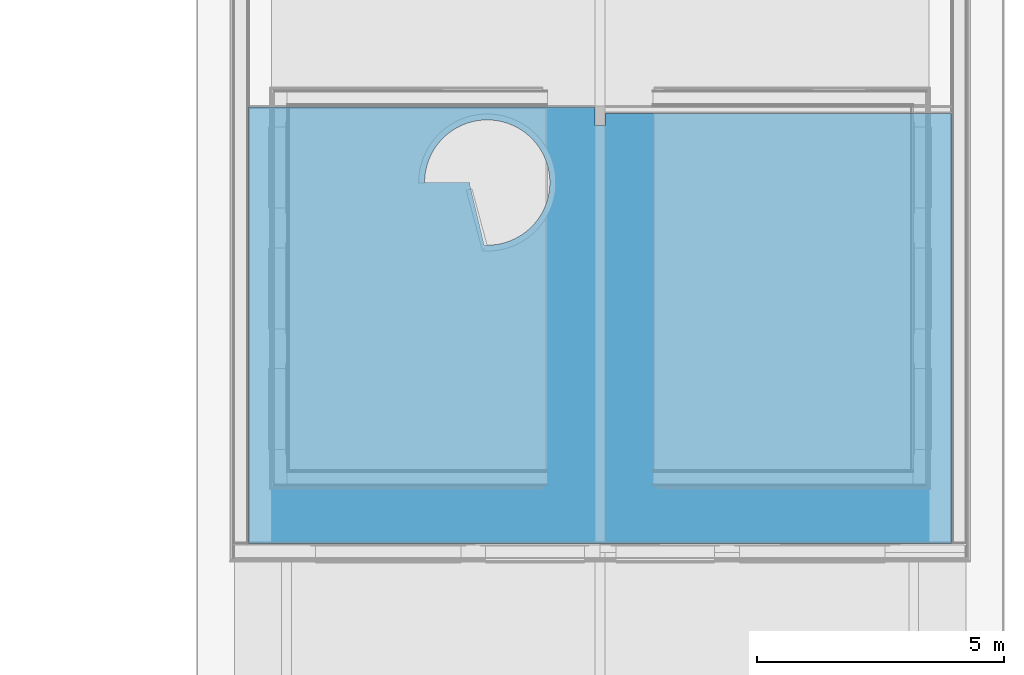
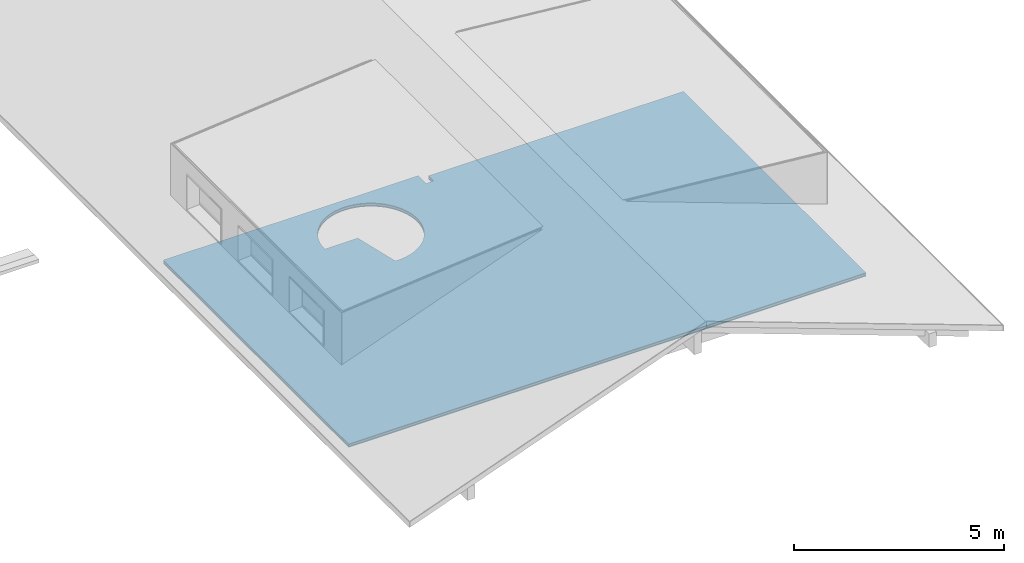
# One storey, part 4 of 12: 3 building element parts, 1 element without a shape of its own.
"""IFC4 building model written with IfcOpenShell, lengths in millimetres."""

from ifc_helpers import new_model, entity, si_unit, converted_unit, derived_unit, direction, frame, origin_with_axes, place, context, subcontext, project, spatial, polygons, material, type_object, element, aggregate, save


model = new_model("IFC4")

# Units and contexts
model_context = context("Model", 3, precision=0.01, world=origin_with_axes(), true_north=direction((0.0, 1.0)))
body_context = subcontext(model_context, "Body", "Model", "MODEL_VIEW")
ifc_project = project(units=[si_unit("LENGTHUNIT", "METRE", prefix="MILLI"), si_unit("AREAUNIT", "SQUARE_METRE"), si_unit("VOLUMEUNIT", "CUBIC_METRE"), converted_unit("PLANEANGLEUNIT", "DEGREE", entity("IfcPlaneAngleMeasure", 0.0174532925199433), si_unit("PLANEANGLEUNIT", "RADIAN"), dimensions=[0, 0, 0, 0, 0, 0, 0]), converted_unit("TIMEUNIT", "Year", entity("IfcTimeMeasure", 31557600.0), si_unit("TIMEUNIT", "SECOND"), dimensions=[0, 0, 1, 0, 0, 0, 0]), si_unit("MASSUNIT", "GRAM", prefix="KILO"), si_unit("THERMODYNAMICTEMPERATUREUNIT", "DEGREE_CELSIUS"), si_unit("LUMINOUSINTENSITYUNIT", "LUMEN"), si_unit("ENERGYUNIT", "JOULE", prefix="MEGA"), derived_unit("THERMALCONDUCTANCEUNIT", [(si_unit("POWERUNIT", "WATT"), 1), (si_unit("LENGTHUNIT", "METRE"), -1), (si_unit("THERMODYNAMICTEMPERATUREUNIT", "KELVIN"), -1)]), derived_unit("SPECIFICHEATCAPACITYUNIT", [(si_unit("ENERGYUNIT", "JOULE"), 1), (si_unit("MASSUNIT", "GRAM", prefix="KILO"), -1), (si_unit("THERMODYNAMICTEMPERATUREUNIT", "KELVIN"), -1)]), derived_unit("MASSDENSITYUNIT", [(si_unit("MASSUNIT", "GRAM", prefix="KILO"), 1), (si_unit("VOLUMEUNIT", "CUBIC_METRE"), -1)])], contexts=[model_context])

# Site, building, storey
site_placement = place(None, origin_with_axes())
site = spatial("IfcSite", under=ifc_project, at=site_placement, Name="Gelände", CompositionType="ELEMENT")
building_placement = place(site_placement, origin_with_axes())
building = spatial("IfcBuilding", under=site, at=building_placement, Name="Gebäude", CompositionType="ELEMENT")
storey_placement = place(building_placement, frame((0.0, 0.0, 11600.0), z_axis=(0.0, 0.0, 1.0), x_axis=(1.0, 0.0, 0.0)))
storey = spatial("IfcBuildingStorey", under=building, at=storey_placement, Name="Dachaufsicht", CompositionType="ELEMENT", Elevation=11600.0)

# Covering, building element parts
covering_type = type_object("IfcCoveringType", Name="Bodenaufbau Typ 01 150", PredefinedType="NOTDEFINED")
covering_placement = place(storey_placement, frame((18307.99744477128, 8826.597281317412, 500.0), z_axis=(0.0, 0.0, 1.0), x_axis=(1.0, 0.0, 0.0)))
covering = element("IfcCovering", 1, at=covering_placement, inside=storey, type_object=covering_type, Name="Decke-007", PredefinedType="NOTDEFINED")
ifc_material_1 = material(Name="Bodenbelag")
building_element_part_1_placement = place(covering_placement, origin_with_axes())
building_element_part_1 = element("IfcBuildingElementPart", 2, at=building_element_part_1_placement, material=ifc_material_1, Name="Bodenbelag", PredefinedType="NOTDEFINED", context=body_context, shape_type="Tessellation", body=[
    polygons([(0.0, 0.0, 134.9999999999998), (14242.00000000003, 0.0, 134.9999999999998), (14242.00000000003, 0.0, 150.0000000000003), (0.0, 0.0, 150.0000000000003), (0.0, 8836.072831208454, 134.9999999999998), (7020.999999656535, 8836.072831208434, 134.9999999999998), (7020.999999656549, 8463.072831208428, 134.9999999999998), (7220.999999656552, 8463.072831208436, 134.9999999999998), (7220.999999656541, 8709.072831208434, 134.9999999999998), (14242.00000000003, 8709.072831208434, 134.9999999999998), (3568.77983396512, 7423.44193809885, 134.9999999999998), (3564.946498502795, 7309.61503117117, 134.9999999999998), (4480.042552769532, 7309.615031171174, 134.9999999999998), (4489.403418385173, 7231.694575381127, 134.9999999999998), (4772.188113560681, 6042.932944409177, 134.9999999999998), (4829.074871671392, 6040.179408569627, 134.9999999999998), (4942.884019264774, 6044.893086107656, 134.9999999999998), (5055.812473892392, 6059.789561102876, 134.9999999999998), (5166.951002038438, 6084.74889589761, 134.9999999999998), (5275.404781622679, 6119.570132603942, 134.9999999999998), (5380.300606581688, 6163.972911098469, 134.9999999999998), (5480.79391741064, 6217.599726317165, 134.9999999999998), (5576.075601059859, 6280.018806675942, 134.9999999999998), (5665.378505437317, 6350.727590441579, 134.9999999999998), (5747.983616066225, 6429.156772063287, 134.9999999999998), (5823.225845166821, 6514.674885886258, 134.9999999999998), (5890.499386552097, 6606.593390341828, 134.9999999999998), (5949.262593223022, 6704.172211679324, 134.9999999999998), (5999.04233839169, 6806.625702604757, 134.9999999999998), (6039.437824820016, 6913.12896785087, 134.9999999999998), (6070.123811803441, 7022.82450574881, 134.9999999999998), (6090.853233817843, 7134.829112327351, 134.9999999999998), (6101.459189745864, 7248.240992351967, 134.9999999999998), (6101.856286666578, 7362.147020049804, 134.9999999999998), (6092.041327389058, 7475.6300910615, 134.9999999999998), (6072.093336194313, 7587.776506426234, 134.9999999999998), (6042.172922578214, 7697.683329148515, 134.9999999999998), (6002.520988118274, 7804.465654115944, 134.9999999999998), (5953.456786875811, 7907.263732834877, 134.9999999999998), (5895.375354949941, 8005.249895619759, 134.9999999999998), (5828.744329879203, 8097.635215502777, 134.9999999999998), (5754.100185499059, 8183.675860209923, 134.9999999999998), (5672.043912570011, 8262.679081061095, 134.9999999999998), (5583.236179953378, 8334.00879057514, 134.9999999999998), (5488.392015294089, 8397.090683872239, 134.9999999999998), (5388.275048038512, 8451.416862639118, 134.9999999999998), (5283.691361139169, 8496.549924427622, 134.9999999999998), (5175.483000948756, 8532.126484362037, 134.9999999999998), (5064.521197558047, 8557.86010090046, 134.9999999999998), (4951.699350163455, 8573.543582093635, 134.9999999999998), (4833.500352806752, 8577.78012279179, 134.9999999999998), (4833.500352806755, 8578.168885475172, 134.9999999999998), (4776.529533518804, 8578.168885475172, 134.9999999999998), (4663.046590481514, 8567.955235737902, 134.9999999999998), (4550.936040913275, 8547.610170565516, 134.9999999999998), (4441.100533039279, 8517.297496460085, 134.9999999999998), (4334.424397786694, 8477.261273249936, 134.9999999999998), (4231.766528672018, 8427.823849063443, 134.9999999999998), (4133.95346649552, 8369.383264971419, 134.9999999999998), (4041.772744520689, 8302.410050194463, 134.9999999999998), (3955.966547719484, 8227.443433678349, 134.9999999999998), (3877.225737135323, 8145.087002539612, 134.9999999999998), (3806.184287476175, 8056.003842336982, 134.9999999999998), (3743.414182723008, 7960.911198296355, 134.9999999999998), (3689.420810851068, 7860.574700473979, 134.9999999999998), (3644.638894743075, 7755.802199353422, 134.9999999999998), (3609.428992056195, 7647.437261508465, 134.9999999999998), (3584.074592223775, 7536.352377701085, 134.9999999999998), (14242.00000000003, 8709.072831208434, 150.0000000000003), (0.0, 8836.072831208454, 150.0000000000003), (7220.999999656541, 8709.072831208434, 150.0000000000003), (7220.999999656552, 8463.072831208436, 150.0000000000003), (7020.999999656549, 8463.072831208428, 150.0000000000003), (7020.999999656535, 8836.072831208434, 150.0000000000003), (4480.042552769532, 7309.615031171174, 150.0000000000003), (3564.946498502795, 7309.61503117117, 150.0000000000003), (3568.77983396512, 7423.44193809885, 150.0000000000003), (3584.074592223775, 7536.352377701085, 150.0000000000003), (3609.428992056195, 7647.437261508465, 150.0000000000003), (3644.638894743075, 7755.802199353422, 150.0000000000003), (3689.420810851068, 7860.574700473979, 150.0000000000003), (3743.414182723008, 7960.911198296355, 150.0000000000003), (3806.184287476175, 8056.003842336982, 150.0000000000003), (3877.225737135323, 8145.087002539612, 150.0000000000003), (3955.966547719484, 8227.443433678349, 150.0000000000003), (4041.772744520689, 8302.410050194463, 150.0000000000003), (4133.95346649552, 8369.383264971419, 150.0000000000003), (4231.766528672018, 8427.823849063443, 150.0000000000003), (4334.424397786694, 8477.261273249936, 150.0000000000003), (4441.100533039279, 8517.297496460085, 150.0000000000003), (4550.936040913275, 8547.610170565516, 150.0000000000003), (4663.046590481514, 8567.955235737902, 150.0000000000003), (4776.529533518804, 8578.168885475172, 150.0000000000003), (4833.500352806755, 8578.168885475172, 150.0000000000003), (4833.500352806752, 8577.78012279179, 150.0000000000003), (4951.699350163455, 8573.543582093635, 150.0000000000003), (5064.521197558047, 8557.86010090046, 150.0000000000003), (5175.483000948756, 8532.126484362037, 150.0000000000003), (5283.691361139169, 8496.549924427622, 150.0000000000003), (5388.275048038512, 8451.416862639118, 150.0000000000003), (5488.392015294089, 8397.090683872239, 150.0000000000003), (5583.236179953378, 8334.00879057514, 150.0000000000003), (5672.043912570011, 8262.679081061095, 150.0000000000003), (5754.100185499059, 8183.675860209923, 150.0000000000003), (5828.744329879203, 8097.635215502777, 150.0000000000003), (5895.375354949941, 8005.249895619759, 150.0000000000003), (5953.456786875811, 7907.263732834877, 150.0000000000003), (6002.520988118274, 7804.465654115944, 150.0000000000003), (6042.172922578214, 7697.683329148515, 150.0000000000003), (6072.093336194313, 7587.776506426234, 150.0000000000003), (6092.041327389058, 7475.6300910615, 150.0000000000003), (6101.856286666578, 7362.147020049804, 150.0000000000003), (6101.459189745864, 7248.240992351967, 150.0000000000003), (6090.853233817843, 7134.829112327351, 150.0000000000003), (6070.123811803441, 7022.82450574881, 150.0000000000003), (6039.437824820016, 6913.12896785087, 150.0000000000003), (5999.04233839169, 6806.625702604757, 150.0000000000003), (5949.262593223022, 6704.172211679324, 150.0000000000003), (5890.499386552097, 6606.593390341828, 150.0000000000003), (5823.225845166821, 6514.674885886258, 150.0000000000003), (5747.983616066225, 6429.156772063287, 150.0000000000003), (5665.378505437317, 6350.727590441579, 150.0000000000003), (5576.075601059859, 6280.018806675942, 150.0000000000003), (5480.79391741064, 6217.599726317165, 150.0000000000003), (5380.300606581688, 6163.972911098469, 150.0000000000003), (5275.404781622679, 6119.570132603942, 150.0000000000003), (5166.951002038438, 6084.74889589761, 150.0000000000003), (5055.812473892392, 6059.789561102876, 150.0000000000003), (4942.884019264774, 6044.893086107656, 150.0000000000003), (4829.074871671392, 6040.179408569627, 150.0000000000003), (4772.188113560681, 6042.932944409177, 150.0000000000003), (4489.403418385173, 7231.694575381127, 150.0000000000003)], [[[1, 2, 3, 4]], [[2, 1, 5, 6, 7, 8, 9, 10], [11, 12, 13, 14, 15, 16, 17, 18, 19, 20, 21, 22, 23, 24, 25, 26, 27, 28, 29, 30, 31, 32, 33, 34, 35, 36, 37, 38, 39, 40, 41, 42, 43, 44, 45, 46, 47, 48, 49, 50, 51, 52, 53, 54, 55, 56, 57, 58, 59, 60, 61, 62, 63, 64, 65, 66, 67, 68]], [[2, 10, 69, 3]], [[70, 4, 3, 69, 71, 72, 73, 74], [75, 76, 77, 78, 79, 80, 81, 82, 83, 84, 85, 86, 87, 88, 89, 90, 91, 92, 93, 94, 95, 96, 97, 98, 99, 100, 101, 102, 103, 104, 105, 106, 107, 108, 109, 110, 111, 112, 113, 114, 115, 116, 117, 118, 119, 120, 121, 122, 123, 124, 125, 126, 127, 128, 129, 130, 131, 132]], [[5, 1, 4, 70]], [[6, 5, 70, 74]], [[7, 6, 74, 73]], [[8, 7, 73, 72]], [[9, 8, 72, 71]], [[10, 9, 71, 69]], [[12, 11, 77, 76]], [[13, 12, 76, 75]], [[14, 13, 75, 132]], [[15, 14, 132, 131]], [[16, 15, 131, 130]], [[17, 16, 130, 129]], [[18, 17, 129, 128]], [[19, 18, 128, 127]], [[20, 19, 127, 126]], [[21, 20, 126, 125]], [[22, 21, 125, 124]], [[23, 22, 124, 123]], [[24, 23, 123, 122]], [[25, 24, 122, 121]], [[26, 25, 121, 120]], [[27, 26, 120, 119]], [[28, 27, 119, 118]], [[29, 28, 118, 117]], [[30, 29, 117, 116]], [[31, 30, 116, 115]], [[32, 31, 115, 114]], [[33, 32, 114, 113]], [[34, 33, 113, 112]], [[35, 34, 112, 111]], [[36, 35, 111, 110]], [[37, 36, 110, 109]], [[38, 37, 109, 108]], [[39, 38, 108, 107]], [[40, 39, 107, 106]], [[41, 40, 106, 105]], [[42, 41, 105, 104]], [[43, 42, 104, 103]], [[44, 43, 103, 102]], [[45, 44, 102, 101]], [[46, 45, 101, 100]], [[47, 46, 100, 99]], [[48, 47, 99, 98]], [[49, 48, 98, 97]], [[50, 49, 97, 96]], [[51, 50, 96, 95]], [[52, 51, 95, 94]], [[53, 52, 94, 93]], [[54, 53, 93, 92]], [[55, 54, 92, 91]], [[56, 55, 91, 90]], [[57, 56, 90, 89]], [[58, 57, 89, 88]], [[59, 58, 88, 87]], [[60, 59, 87, 86]], [[61, 60, 86, 85]], [[62, 61, 85, 84]], [[63, 62, 84, 83]], [[64, 63, 83, 82]], [[65, 64, 82, 81]], [[66, 65, 81, 80]], [[67, 66, 80, 79]], [[68, 67, 79, 78]], [[11, 68, 78, 77]]], closed=True),
])
ifc_material_2 = material(Name="Unterlagsboden")
building_element_part_2_placement = place(covering_placement, origin_with_axes())
building_element_part_2 = element("IfcBuildingElementPart", 3, at=building_element_part_2_placement, material=ifc_material_2, Name="Unterlagsboden", PredefinedType="NOTDEFINED", context=body_context, shape_type="Tessellation", body=[
    polygons([(0.0, 0.0, 80.00000000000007), (14242.00000000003, 0.0, 80.00000000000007), (14242.00000000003, 0.0, 134.9999999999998), (0.0, 0.0, 134.9999999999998), (0.0, 8836.072831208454, 80.00000000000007), (7020.999999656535, 8836.072831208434, 80.00000000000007), (7020.999999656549, 8463.072831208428, 80.00000000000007), (7220.999999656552, 8463.072831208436, 80.00000000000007), (7220.999999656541, 8709.072831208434, 80.00000000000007), (14242.00000000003, 8709.072831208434, 80.00000000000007), (3568.77983396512, 7423.44193809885, 80.00000000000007), (3564.946498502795, 7309.61503117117, 80.00000000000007), (4480.042552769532, 7309.615031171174, 80.00000000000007), (4489.403418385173, 7231.694575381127, 80.00000000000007), (4772.188113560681, 6042.932944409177, 80.00000000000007), (4829.074871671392, 6040.179408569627, 80.00000000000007), (4942.884019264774, 6044.893086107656, 80.00000000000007), (5055.812473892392, 6059.789561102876, 80.00000000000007), (5166.951002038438, 6084.74889589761, 80.00000000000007), (5275.404781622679, 6119.570132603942, 80.00000000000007), (5380.300606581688, 6163.972911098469, 80.00000000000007), (5480.79391741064, 6217.599726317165, 80.00000000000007), (5576.075601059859, 6280.018806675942, 80.00000000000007), (5665.378505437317, 6350.727590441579, 80.00000000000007), (5747.983616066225, 6429.156772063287, 80.00000000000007), (5823.225845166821, 6514.674885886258, 80.00000000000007), (5890.499386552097, 6606.593390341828, 80.00000000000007), (5949.262593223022, 6704.172211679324, 80.00000000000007), (5999.04233839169, 6806.625702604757, 80.00000000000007), (6039.437824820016, 6913.12896785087, 80.00000000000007), (6070.123811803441, 7022.82450574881, 80.00000000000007), (6090.853233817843, 7134.829112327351, 80.00000000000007), (6101.459189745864, 7248.240992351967, 80.00000000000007), (6101.856286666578, 7362.147020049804, 80.00000000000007), (6092.041327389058, 7475.6300910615, 80.00000000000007), (6072.093336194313, 7587.776506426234, 80.00000000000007), (6042.172922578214, 7697.683329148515, 80.00000000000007), (6002.520988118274, 7804.465654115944, 80.00000000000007), (5953.456786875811, 7907.263732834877, 80.00000000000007), (5895.375354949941, 8005.249895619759, 80.00000000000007), (5828.744329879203, 8097.635215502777, 80.00000000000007), (5754.100185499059, 8183.675860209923, 80.00000000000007), (5672.043912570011, 8262.679081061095, 80.00000000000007), (5583.236179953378, 8334.00879057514, 80.00000000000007), (5488.392015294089, 8397.090683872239, 80.00000000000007), (5388.275048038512, 8451.416862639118, 80.00000000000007), (5283.691361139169, 8496.549924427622, 80.00000000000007), (5175.483000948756, 8532.126484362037, 80.00000000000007), (5064.521197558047, 8557.86010090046, 80.00000000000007), (4951.699350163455, 8573.543582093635, 80.00000000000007), (4833.500352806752, 8577.78012279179, 80.00000000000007), (4833.500352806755, 8578.168885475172, 80.00000000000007), (4776.529533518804, 8578.168885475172, 80.00000000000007), (4663.046590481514, 8567.955235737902, 80.00000000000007), (4550.936040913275, 8547.610170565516, 80.00000000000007), (4441.100533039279, 8517.297496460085, 80.00000000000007), (4334.424397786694, 8477.261273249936, 80.00000000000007), (4231.766528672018, 8427.823849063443, 80.00000000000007), (4133.95346649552, 8369.383264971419, 80.00000000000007), (4041.772744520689, 8302.410050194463, 80.00000000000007), (3955.966547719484, 8227.443433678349, 80.00000000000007), (3877.225737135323, 8145.087002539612, 80.00000000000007), (3806.184287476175, 8056.003842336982, 80.00000000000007), (3743.414182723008, 7960.911198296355, 80.00000000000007), (3689.420810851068, 7860.574700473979, 80.00000000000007), (3644.638894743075, 7755.802199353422, 80.00000000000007), (3609.428992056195, 7647.437261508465, 80.00000000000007), (3584.074592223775, 7536.352377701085, 80.00000000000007), (14242.00000000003, 8709.072831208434, 134.9999999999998), (0.0, 8836.072831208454, 134.9999999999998), (7220.999999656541, 8709.072831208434, 134.9999999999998), (7220.999999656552, 8463.072831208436, 134.9999999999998), (7020.999999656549, 8463.072831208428, 134.9999999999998), (7020.999999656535, 8836.072831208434, 134.9999999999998), (4480.042552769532, 7309.615031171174, 134.9999999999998), (3564.946498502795, 7309.61503117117, 134.9999999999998), (3568.77983396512, 7423.44193809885, 134.9999999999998), (3584.074592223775, 7536.352377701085, 134.9999999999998), (3609.428992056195, 7647.437261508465, 134.9999999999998), (3644.638894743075, 7755.802199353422, 134.9999999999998), (3689.420810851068, 7860.574700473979, 134.9999999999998), (3743.414182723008, 7960.911198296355, 134.9999999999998), (3806.184287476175, 8056.003842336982, 134.9999999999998), (3877.225737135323, 8145.087002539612, 134.9999999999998), (3955.966547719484, 8227.443433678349, 134.9999999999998), (4041.772744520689, 8302.410050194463, 134.9999999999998), (4133.95346649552, 8369.383264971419, 134.9999999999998), (4231.766528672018, 8427.823849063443, 134.9999999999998), (4334.424397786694, 8477.261273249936, 134.9999999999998), (4441.100533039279, 8517.297496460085, 134.9999999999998), (4550.936040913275, 8547.610170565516, 134.9999999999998), (4663.046590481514, 8567.955235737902, 134.9999999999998), (4776.529533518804, 8578.168885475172, 134.9999999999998), (4833.500352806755, 8578.168885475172, 134.9999999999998), (4833.500352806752, 8577.78012279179, 134.9999999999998), (4951.699350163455, 8573.543582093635, 134.9999999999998), (5064.521197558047, 8557.86010090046, 134.9999999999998), (5175.483000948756, 8532.126484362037, 134.9999999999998), (5283.691361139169, 8496.549924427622, 134.9999999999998), (5388.275048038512, 8451.416862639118, 134.9999999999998), (5488.392015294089, 8397.090683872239, 134.9999999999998), (5583.236179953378, 8334.00879057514, 134.9999999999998), (5672.043912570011, 8262.679081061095, 134.9999999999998), (5754.100185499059, 8183.675860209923, 134.9999999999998), (5828.744329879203, 8097.635215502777, 134.9999999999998), (5895.375354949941, 8005.249895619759, 134.9999999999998), (5953.456786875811, 7907.263732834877, 134.9999999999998), (6002.520988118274, 7804.465654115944, 134.9999999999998), (6042.172922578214, 7697.683329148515, 134.9999999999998), (6072.093336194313, 7587.776506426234, 134.9999999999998), (6092.041327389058, 7475.6300910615, 134.9999999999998), (6101.856286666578, 7362.147020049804, 134.9999999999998), (6101.459189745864, 7248.240992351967, 134.9999999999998), (6090.853233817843, 7134.829112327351, 134.9999999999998), (6070.123811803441, 7022.82450574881, 134.9999999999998), (6039.437824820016, 6913.12896785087, 134.9999999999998), (5999.04233839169, 6806.625702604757, 134.9999999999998), (5949.262593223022, 6704.172211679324, 134.9999999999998), (5890.499386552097, 6606.593390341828, 134.9999999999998), (5823.225845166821, 6514.674885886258, 134.9999999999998), (5747.983616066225, 6429.156772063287, 134.9999999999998), (5665.378505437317, 6350.727590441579, 134.9999999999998), (5576.075601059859, 6280.018806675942, 134.9999999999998), (5480.79391741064, 6217.599726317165, 134.9999999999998), (5380.300606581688, 6163.972911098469, 134.9999999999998), (5275.404781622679, 6119.570132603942, 134.9999999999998), (5166.951002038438, 6084.74889589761, 134.9999999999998), (5055.812473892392, 6059.789561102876, 134.9999999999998), (4942.884019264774, 6044.893086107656, 134.9999999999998), (4829.074871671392, 6040.179408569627, 134.9999999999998), (4772.188113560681, 6042.932944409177, 134.9999999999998), (4489.403418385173, 7231.694575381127, 134.9999999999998)], [[[1, 2, 3, 4]], [[2, 1, 5, 6, 7, 8, 9, 10], [11, 12, 13, 14, 15, 16, 17, 18, 19, 20, 21, 22, 23, 24, 25, 26, 27, 28, 29, 30, 31, 32, 33, 34, 35, 36, 37, 38, 39, 40, 41, 42, 43, 44, 45, 46, 47, 48, 49, 50, 51, 52, 53, 54, 55, 56, 57, 58, 59, 60, 61, 62, 63, 64, 65, 66, 67, 68]], [[2, 10, 69, 3]], [[70, 4, 3, 69, 71, 72, 73, 74], [75, 76, 77, 78, 79, 80, 81, 82, 83, 84, 85, 86, 87, 88, 89, 90, 91, 92, 93, 94, 95, 96, 97, 98, 99, 100, 101, 102, 103, 104, 105, 106, 107, 108, 109, 110, 111, 112, 113, 114, 115, 116, 117, 118, 119, 120, 121, 122, 123, 124, 125, 126, 127, 128, 129, 130, 131, 132]], [[5, 1, 4, 70]], [[6, 5, 70, 74]], [[7, 6, 74, 73]], [[8, 7, 73, 72]], [[9, 8, 72, 71]], [[10, 9, 71, 69]], [[12, 11, 77, 76]], [[13, 12, 76, 75]], [[14, 13, 75, 132]], [[15, 14, 132, 131]], [[16, 15, 131, 130]], [[17, 16, 130, 129]], [[18, 17, 129, 128]], [[19, 18, 128, 127]], [[20, 19, 127, 126]], [[21, 20, 126, 125]], [[22, 21, 125, 124]], [[23, 22, 124, 123]], [[24, 23, 123, 122]], [[25, 24, 122, 121]], [[26, 25, 121, 120]], [[27, 26, 120, 119]], [[28, 27, 119, 118]], [[29, 28, 118, 117]], [[30, 29, 117, 116]], [[31, 30, 116, 115]], [[32, 31, 115, 114]], [[33, 32, 114, 113]], [[34, 33, 113, 112]], [[35, 34, 112, 111]], [[36, 35, 111, 110]], [[37, 36, 110, 109]], [[38, 37, 109, 108]], [[39, 38, 108, 107]], [[40, 39, 107, 106]], [[41, 40, 106, 105]], [[42, 41, 105, 104]], [[43, 42, 104, 103]], [[44, 43, 103, 102]], [[45, 44, 102, 101]], [[46, 45, 101, 100]], [[47, 46, 100, 99]], [[48, 47, 99, 98]], [[49, 48, 98, 97]], [[50, 49, 97, 96]], [[51, 50, 96, 95]], [[52, 51, 95, 94]], [[53, 52, 94, 93]], [[54, 53, 93, 92]], [[55, 54, 92, 91]], [[56, 55, 91, 90]], [[57, 56, 90, 89]], [[58, 57, 89, 88]], [[59, 58, 88, 87]], [[60, 59, 87, 86]], [[61, 60, 86, 85]], [[62, 61, 85, 84]], [[63, 62, 84, 83]], [[64, 63, 83, 82]], [[65, 64, 82, 81]], [[66, 65, 81, 80]], [[67, 66, 80, 79]], [[68, 67, 79, 78]], [[11, 68, 78, 77]]], closed=True),
])
ifc_material_3 = material(Name="Trittschalldämmung")
building_element_part_3_placement = place(covering_placement, origin_with_axes())
building_element_part_3 = element("IfcBuildingElementPart", 4, at=building_element_part_3_placement, material=ifc_material_3, Name="Trittschalldämmung", PredefinedType="NOTDEFINED", context=body_context, shape_type="Tessellation", body=[
    polygons([(0.0, 0.0, 50.00000000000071), (14242.00000000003, 0.0, 50.00000000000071), (14242.00000000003, 0.0, 80.00000000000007), (0.0, 0.0, 80.00000000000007), (0.0, 8836.072831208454, 50.00000000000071), (7020.999999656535, 8836.072831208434, 50.00000000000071), (7020.999999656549, 8463.072831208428, 50.00000000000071), (7220.999999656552, 8463.072831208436, 50.00000000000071), (7220.999999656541, 8709.072831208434, 50.00000000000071), (14242.00000000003, 8709.072831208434, 50.00000000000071), (3568.77983396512, 7423.44193809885, 50.00000000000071), (3564.946498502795, 7309.61503117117, 50.00000000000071), (4480.042552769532, 7309.615031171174, 50.00000000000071), (4489.403418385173, 7231.694575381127, 50.00000000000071), (4772.188113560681, 6042.932944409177, 50.00000000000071), (4829.074871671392, 6040.179408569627, 50.00000000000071), (4942.884019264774, 6044.893086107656, 50.00000000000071), (5055.812473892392, 6059.789561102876, 50.00000000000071), (5166.951002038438, 6084.74889589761, 50.00000000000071), (5275.404781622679, 6119.570132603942, 50.00000000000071), (5380.300606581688, 6163.972911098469, 50.00000000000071), (5480.79391741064, 6217.599726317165, 50.00000000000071), (5576.075601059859, 6280.018806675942, 50.00000000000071), (5665.378505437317, 6350.727590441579, 50.00000000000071), (5747.983616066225, 6429.156772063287, 50.00000000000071), (5823.225845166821, 6514.674885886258, 50.00000000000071), (5890.499386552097, 6606.593390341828, 50.00000000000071), (5949.262593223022, 6704.172211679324, 50.00000000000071), (5999.04233839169, 6806.625702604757, 50.00000000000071), (6039.437824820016, 6913.12896785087, 50.00000000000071), (6070.123811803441, 7022.82450574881, 50.00000000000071), (6090.853233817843, 7134.829112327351, 50.00000000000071), (6101.459189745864, 7248.240992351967, 50.00000000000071), (6101.856286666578, 7362.147020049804, 50.00000000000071), (6092.041327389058, 7475.6300910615, 50.00000000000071), (6072.093336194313, 7587.776506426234, 50.00000000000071), (6042.172922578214, 7697.683329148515, 50.00000000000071), (6002.520988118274, 7804.465654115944, 50.00000000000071), (5953.456786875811, 7907.263732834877, 50.00000000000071), (5895.375354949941, 8005.249895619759, 50.00000000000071), (5828.744329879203, 8097.635215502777, 50.00000000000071), (5754.100185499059, 8183.675860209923, 50.00000000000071), (5672.043912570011, 8262.679081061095, 50.00000000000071), (5583.236179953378, 8334.00879057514, 50.00000000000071), (5488.392015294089, 8397.090683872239, 50.00000000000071), (5388.275048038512, 8451.416862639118, 50.00000000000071), (5283.691361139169, 8496.549924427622, 50.00000000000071), (5175.483000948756, 8532.126484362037, 50.00000000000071), (5064.521197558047, 8557.86010090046, 50.00000000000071), (4951.699350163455, 8573.543582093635, 50.00000000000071), (4833.500352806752, 8577.78012279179, 50.00000000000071), (4833.500352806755, 8578.168885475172, 50.00000000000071), (4776.529533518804, 8578.168885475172, 50.00000000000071), (4663.046590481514, 8567.955235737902, 50.00000000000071), (4550.936040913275, 8547.610170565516, 50.00000000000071), (4441.100533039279, 8517.297496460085, 50.00000000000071), (4334.424397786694, 8477.261273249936, 50.00000000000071), (4231.766528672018, 8427.823849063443, 50.00000000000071), (4133.95346649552, 8369.383264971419, 50.00000000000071), (4041.772744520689, 8302.410050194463, 50.00000000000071), (3955.966547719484, 8227.443433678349, 50.00000000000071), (3877.225737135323, 8145.087002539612, 50.00000000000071), (3806.184287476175, 8056.003842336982, 50.00000000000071), (3743.414182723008, 7960.911198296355, 50.00000000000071), (3689.420810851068, 7860.574700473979, 50.00000000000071), (3644.638894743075, 7755.802199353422, 50.00000000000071), (3609.428992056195, 7647.437261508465, 50.00000000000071), (3584.074592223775, 7536.352377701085, 50.00000000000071), (14242.00000000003, 8709.072831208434, 80.00000000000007), (0.0, 8836.072831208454, 80.00000000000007), (7220.999999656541, 8709.072831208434, 80.00000000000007), (7220.999999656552, 8463.072831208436, 80.00000000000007), (7020.999999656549, 8463.072831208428, 80.00000000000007), (7020.999999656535, 8836.072831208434, 80.00000000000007), (4480.042552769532, 7309.615031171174, 80.00000000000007), (3564.946498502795, 7309.61503117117, 80.00000000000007), (3568.77983396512, 7423.44193809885, 80.00000000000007), (3584.074592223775, 7536.352377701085, 80.00000000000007), (3609.428992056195, 7647.437261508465, 80.00000000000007), (3644.638894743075, 7755.802199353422, 80.00000000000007), (3689.420810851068, 7860.574700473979, 80.00000000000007), (3743.414182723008, 7960.911198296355, 80.00000000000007), (3806.184287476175, 8056.003842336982, 80.00000000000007), (3877.225737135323, 8145.087002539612, 80.00000000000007), (3955.966547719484, 8227.443433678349, 80.00000000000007), (4041.772744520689, 8302.410050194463, 80.00000000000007), (4133.95346649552, 8369.383264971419, 80.00000000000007), (4231.766528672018, 8427.823849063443, 80.00000000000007), (4334.424397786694, 8477.261273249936, 80.00000000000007), (4441.100533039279, 8517.297496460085, 80.00000000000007), (4550.936040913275, 8547.610170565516, 80.00000000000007), (4663.046590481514, 8567.955235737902, 80.00000000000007), (4776.529533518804, 8578.168885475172, 80.00000000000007), (4833.500352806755, 8578.168885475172, 80.00000000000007), (4833.500352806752, 8577.78012279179, 80.00000000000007), (4951.699350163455, 8573.543582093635, 80.00000000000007), (5064.521197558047, 8557.86010090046, 80.00000000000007), (5175.483000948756, 8532.126484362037, 80.00000000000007), (5283.691361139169, 8496.549924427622, 80.00000000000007), (5388.275048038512, 8451.416862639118, 80.00000000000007), (5488.392015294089, 8397.090683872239, 80.00000000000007), (5583.236179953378, 8334.00879057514, 80.00000000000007), (5672.043912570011, 8262.679081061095, 80.00000000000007), (5754.100185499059, 8183.675860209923, 80.00000000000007), (5828.744329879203, 8097.635215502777, 80.00000000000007), (5895.375354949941, 8005.249895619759, 80.00000000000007), (5953.456786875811, 7907.263732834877, 80.00000000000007), (6002.520988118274, 7804.465654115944, 80.00000000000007), (6042.172922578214, 7697.683329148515, 80.00000000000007), (6072.093336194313, 7587.776506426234, 80.00000000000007), (6092.041327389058, 7475.6300910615, 80.00000000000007), (6101.856286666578, 7362.147020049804, 80.00000000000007), (6101.459189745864, 7248.240992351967, 80.00000000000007), (6090.853233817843, 7134.829112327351, 80.00000000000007), (6070.123811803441, 7022.82450574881, 80.00000000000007), (6039.437824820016, 6913.12896785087, 80.00000000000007), (5999.04233839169, 6806.625702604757, 80.00000000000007), (5949.262593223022, 6704.172211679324, 80.00000000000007), (5890.499386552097, 6606.593390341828, 80.00000000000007), (5823.225845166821, 6514.674885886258, 80.00000000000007), (5747.983616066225, 6429.156772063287, 80.00000000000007), (5665.378505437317, 6350.727590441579, 80.00000000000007), (5576.075601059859, 6280.018806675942, 80.00000000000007), (5480.79391741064, 6217.599726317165, 80.00000000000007), (5380.300606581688, 6163.972911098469, 80.00000000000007), (5275.404781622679, 6119.570132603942, 80.00000000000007), (5166.951002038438, 6084.74889589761, 80.00000000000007), (5055.812473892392, 6059.789561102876, 80.00000000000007), (4942.884019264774, 6044.893086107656, 80.00000000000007), (4829.074871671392, 6040.179408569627, 80.00000000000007), (4772.188113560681, 6042.932944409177, 80.00000000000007), (4489.403418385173, 7231.694575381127, 80.00000000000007)], [[[1, 2, 3, 4]], [[2, 1, 5, 6, 7, 8, 9, 10], [11, 12, 13, 14, 15, 16, 17, 18, 19, 20, 21, 22, 23, 24, 25, 26, 27, 28, 29, 30, 31, 32, 33, 34, 35, 36, 37, 38, 39, 40, 41, 42, 43, 44, 45, 46, 47, 48, 49, 50, 51, 52, 53, 54, 55, 56, 57, 58, 59, 60, 61, 62, 63, 64, 65, 66, 67, 68]], [[2, 10, 69, 3]], [[70, 4, 3, 69, 71, 72, 73, 74], [75, 76, 77, 78, 79, 80, 81, 82, 83, 84, 85, 86, 87, 88, 89, 90, 91, 92, 93, 94, 95, 96, 97, 98, 99, 100, 101, 102, 103, 104, 105, 106, 107, 108, 109, 110, 111, 112, 113, 114, 115, 116, 117, 118, 119, 120, 121, 122, 123, 124, 125, 126, 127, 128, 129, 130, 131, 132]], [[5, 1, 4, 70]], [[6, 5, 70, 74]], [[7, 6, 74, 73]], [[8, 7, 73, 72]], [[9, 8, 72, 71]], [[10, 9, 71, 69]], [[12, 11, 77, 76]], [[13, 12, 76, 75]], [[14, 13, 75, 132]], [[15, 14, 132, 131]], [[16, 15, 131, 130]], [[17, 16, 130, 129]], [[18, 17, 129, 128]], [[19, 18, 128, 127]], [[20, 19, 127, 126]], [[21, 20, 126, 125]], [[22, 21, 125, 124]], [[23, 22, 124, 123]], [[24, 23, 123, 122]], [[25, 24, 122, 121]], [[26, 25, 121, 120]], [[27, 26, 120, 119]], [[28, 27, 119, 118]], [[29, 28, 118, 117]], [[30, 29, 117, 116]], [[31, 30, 116, 115]], [[32, 31, 115, 114]], [[33, 32, 114, 113]], [[34, 33, 113, 112]], [[35, 34, 112, 111]], [[36, 35, 111, 110]], [[37, 36, 110, 109]], [[38, 37, 109, 108]], [[39, 38, 108, 107]], [[40, 39, 107, 106]], [[41, 40, 106, 105]], [[42, 41, 105, 104]], [[43, 42, 104, 103]], [[44, 43, 103, 102]], [[45, 44, 102, 101]], [[46, 45, 101, 100]], [[47, 46, 100, 99]], [[48, 47, 99, 98]], [[49, 48, 98, 97]], [[50, 49, 97, 96]], [[51, 50, 96, 95]], [[52, 51, 95, 94]], [[53, 52, 94, 93]], [[54, 53, 93, 92]], [[55, 54, 92, 91]], [[56, 55, 91, 90]], [[57, 56, 90, 89]], [[58, 57, 89, 88]], [[59, 58, 88, 87]], [[60, 59, 87, 86]], [[61, 60, 86, 85]], [[62, 61, 85, 84]], [[63, 62, 84, 83]], [[64, 63, 83, 82]], [[65, 64, 82, 81]], [[66, 65, 81, 80]], [[67, 66, 80, 79]], [[68, 67, 79, 78]], [[11, 68, 78, 77]]], closed=True),
])
aggregate(covering, [building_element_part_1, building_element_part_2, building_element_part_3])

save(model, "model.ifc")
